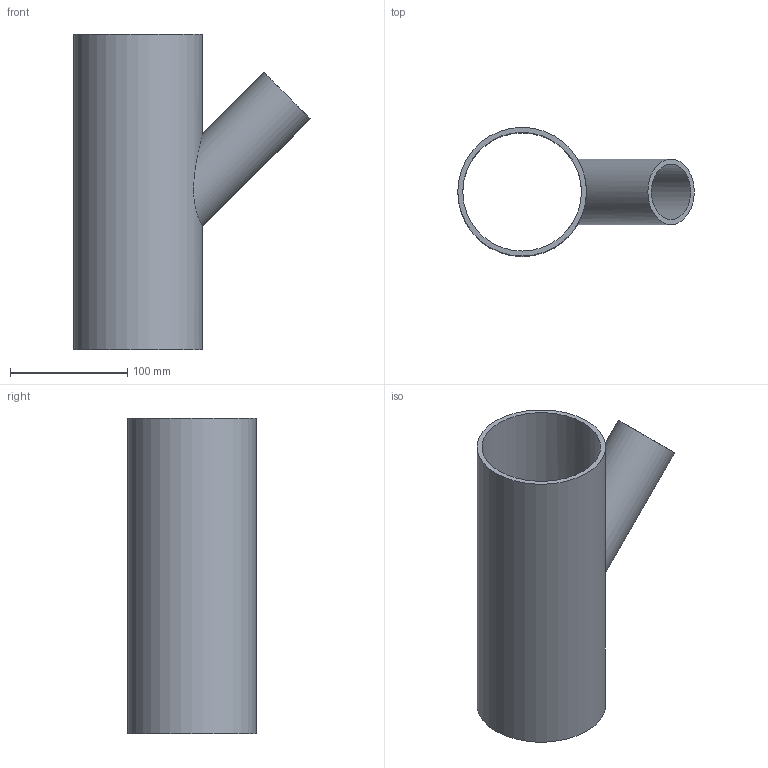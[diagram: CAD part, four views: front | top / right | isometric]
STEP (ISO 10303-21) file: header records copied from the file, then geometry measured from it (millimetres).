
FILE_DESCRIPTION(/* description */ (''),/* implementation_level */ '2;1');
FILE_NAME(/* name */ 'C:\Planerdaten\Export PLA\PRO_101557\stp\367115.stp',/* time_stamp */ '2021-09-30T15:06:26+02:00',/* author */ ('JANAN'),/* organization */ (''),/* preprocessor_version */ 'ST-DEVELOPER v16.13',/* originating_system */ 'Autodesk Inventor 2018',/* authorisation */ '');
FILE_SCHEMA (('AUTOMOTIVE_DESIGN { 1 0 10303 214 3 1 1 }'));
Length unit declared in the file: millimetre
Products named in the file (1): tmpB0B0.tmp
Bounding box: 202.08 x 110 x 270 mm (x, y, z)
Volume: 449066.5 mm3; surface area: 212345.4 mm2
Topology: 1 solids, 1 shells, 7 faces, 17 edges, 12 vertices
Faces by surface type: cylinder 4, plane 3
Full cylindrical faces by diameter (mm): 47.4 x1, 56 x1, 101.4 x1, 110 x1
Entity records: 312 total; most frequent: CARTESIAN_POINT 134, DIRECTION 28, EDGE_LOOP 16, ORIENTED_EDGE 16, AXIS2_PLACEMENT_3D 14, FACE_BOUND 9, VERTEX_POINT 8, EDGE_CURVE 8
